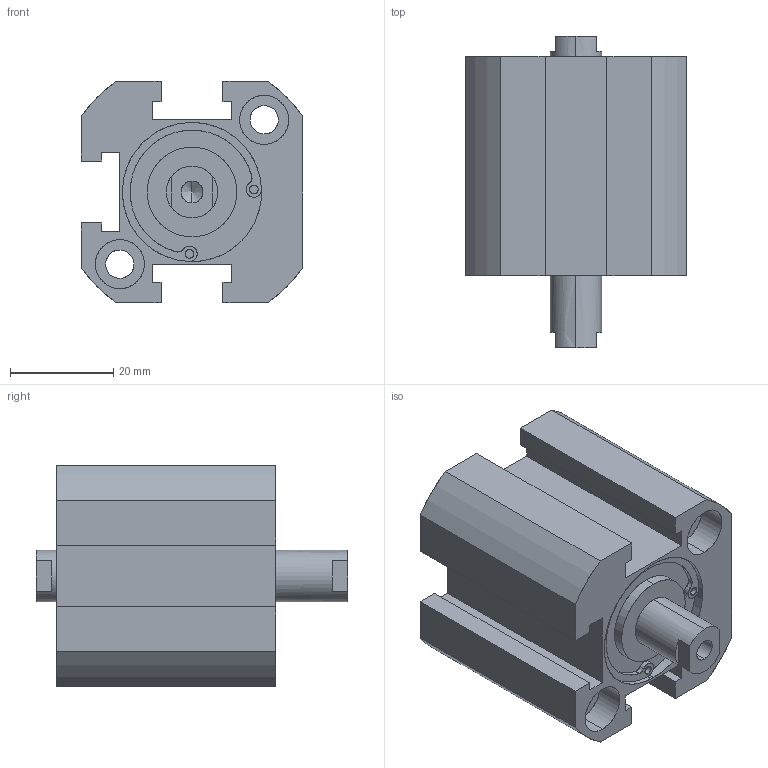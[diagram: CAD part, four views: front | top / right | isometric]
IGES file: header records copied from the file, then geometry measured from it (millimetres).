
Start section: SolidWorks IGES file using analytic representation for surfaces
Global section: file name: C:\Users\Toshiba\Desktop\XG#7-25D-10.IGS; native system: SolidWorks 2014; preprocessor: SolidWorks 2014; author: Toshiba; date: 160524.095755; units: millimetre
Bounding box: 43 x 60.5 x 43 mm (x, y, z)
Surface area: 15878.8 mm2 (no closed solid volume)
Topology: 0 solids, 0 shells, 127 faces, 1902 edges, 1894 vertices
Faces by surface type: revolution 73, bspline 54
